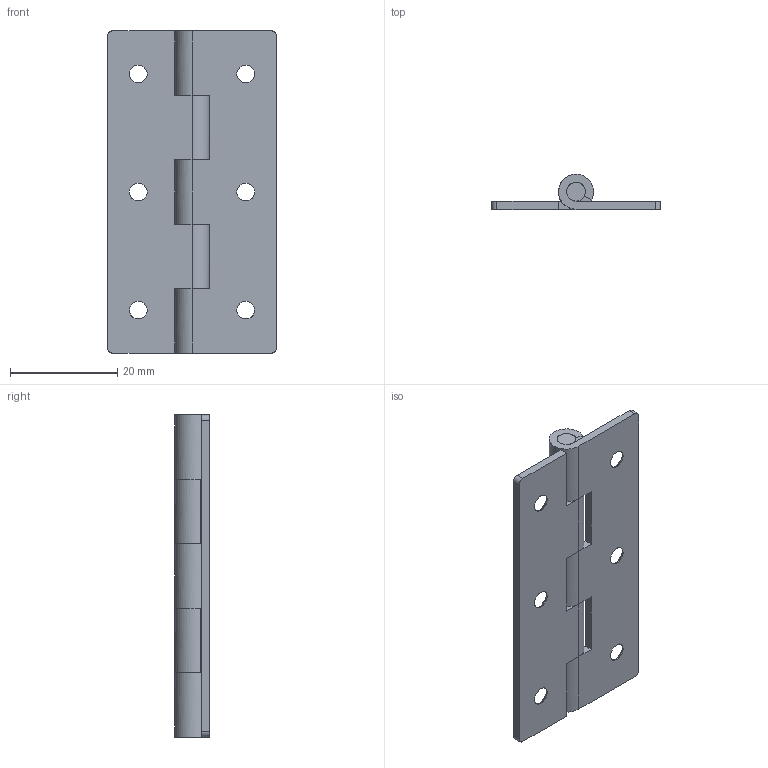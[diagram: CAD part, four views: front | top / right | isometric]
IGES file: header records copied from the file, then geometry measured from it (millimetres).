
Global section: file name: DR_HH6032-15; native system: Autodesk Inventor 2015; preprocessor: unknown; author: user; date: 20170817.082422; units: millimetre
Bounding box: 31.5 x 6.5 x 60 mm (x, y, z)
Volume: 4167 mm3; surface area: 6486.8 mm2
Topology: 3 solids, 3 shells, 67 faces, 193 edges, 130 vertices
Faces by surface type: bspline 67
